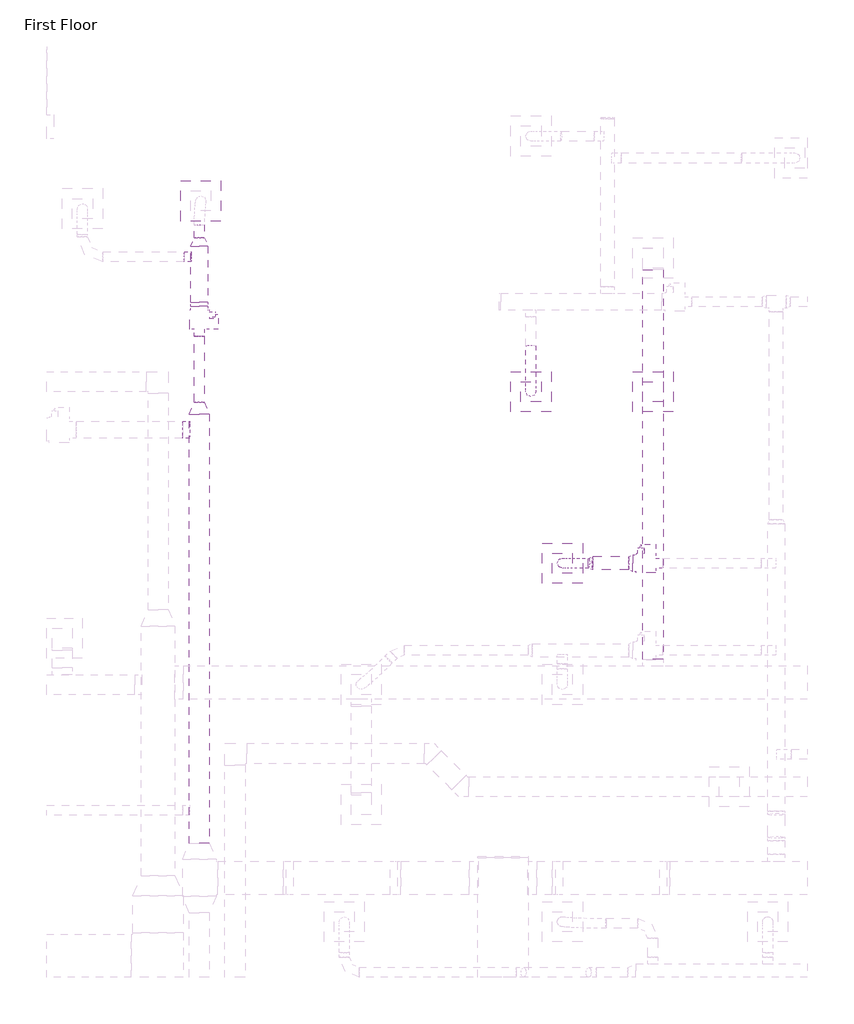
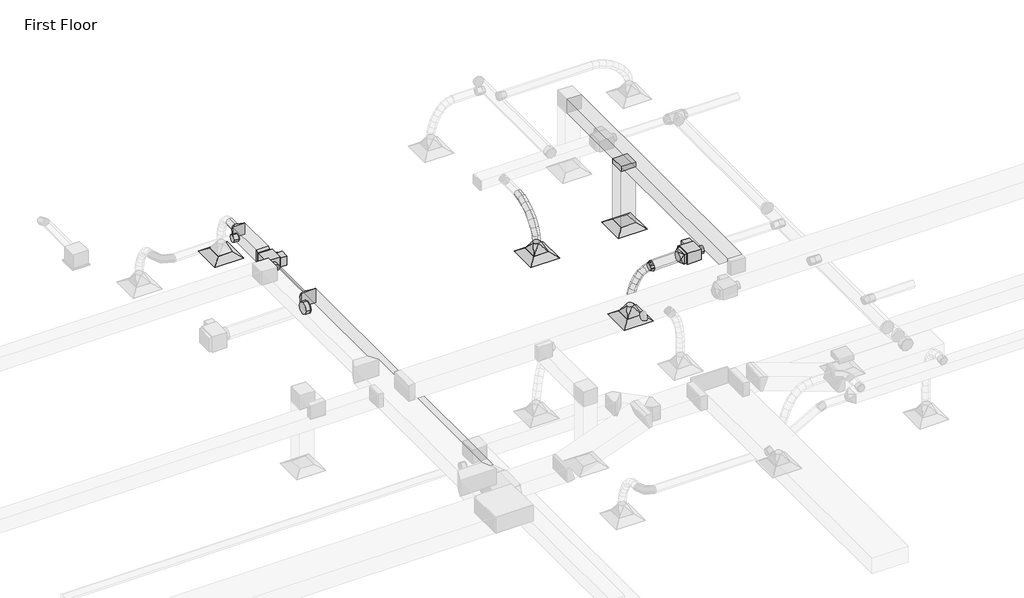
# One storey, part 45 of 61: 10 duct fittings, 9 duct segments, 4 air terminals, 2 proxies.
"""IFC4 building model written with IfcOpenShell, lengths in millimetres."""

from ifc_helpers import new_model, si_unit, point, frame, frame_2d, origin, place, context, project, spatial, polyline, circle_curve, ellipse_curve, trimmed, segment, composite_curve, outline, extrude, transform, mapped, element, save
from ifc_brep_helpers import plane_surface, cylinder_surface, advanced_brep
from components import m_exhaust_grill_er_600_x_600_face_300_x_300_connection_ff221211, m_vav_unit_single_duct_150_mm_ffdab17b, m_rectangular_takeoff_standard_c00386d1, m_rectangular_transition_angle_45_degree_9245851e, m_rectangular_to_round_transition_angle_45_degree_8f201c83, m_rectangular_to_round_transition_angle_45_degree_9bcfcd89, m_rectangular_to_round_transition_angle_45_degree_c6fe11b9, m_rectangular_to_round_transition_angle_45_degree_c6905c64, m_round_takeoff_standard_2721f8a4, m_round_takeoff_standard_4aec91d0, m_round_transition_angle_45_degree_6d7b59ce

model = new_model("IFC4")

# Units and contexts
model_context = context("Model", 3, world=origin())
ifc_project = project(units=[si_unit("LENGTHUNIT", "METRE", prefix="MILLI")], contexts=[model_context])

# Site, building, storey
site = spatial("IfcSite", under=ifc_project)
building = spatial("IfcBuilding", under=site)
storey = spatial("IfcBuildingStorey", under=building, Name="First Floor", Elevation=0.0)

# Air terminals
placement = place(None, origin())
m_exhaust_grill_er_600_x_600_face_300_x_300_connection_shape = m_exhaust_grill_er_600_x_600_face_300_x_300_connection_ff221211(model_context)
element("IfcAirTerminal", 1, ObjectType="M_Return Register : RR-600 x 600 Face 300 x 300 Connection", at=placement, inside=storey, context=model_context, shape_type="MappedRepresentation", body=[
    mapped(m_exhaust_grill_er_600_x_600_face_300_x_300_connection_shape, transform((-32756.4805906, 51545.5053219, 2680.0), x_axis=(1.0, 0.0, 0.0), y_axis=(0.0, 1.0, 0.0), z_axis=(0.0, 0.0, 1.0))),
])
element("IfcAirTerminal", 2, ObjectType="M_Supply Diffuser : SD-600 x 600 Face 300 x 300 Connection", at=placement, inside=storey, context=model_context, shape_type="MappedRepresentation", body=[
    mapped(m_exhaust_grill_er_600_x_600_face_300_x_300_connection_shape, transform((-34574.8846187, 51545.5053219, 2680.0), x_axis=(1.0, 0.0, 0.0), y_axis=(0.0, 1.0, 0.0), z_axis=(0.0, 0.0, 1.0))),
])
element("IfcAirTerminal", 3, ObjectType="M_Supply Diffuser : SD-600 x 600 Face 300 x 300 Connection", at=placement, inside=storey, context=model_context, shape_type="MappedRepresentation", body=[
    mapped(m_exhaust_grill_er_600_x_600_face_300_x_300_connection_shape, transform((-34106.7085824, 48990.9394014, 2680.0), x_axis=(1.0, 0.0, 0.0), y_axis=(0.0, 1.0, 0.0), z_axis=(0.0, 0.0, 1.0))),
])
element("IfcAirTerminal", 4, ObjectType="M_Supply Diffuser : SD-600 x 600 Face 300 x 300 Connection", at=placement, inside=storey, context=model_context, shape_type="MappedRepresentation", body=[
    mapped(m_exhaust_grill_er_600_x_600_face_300_x_300_connection_shape, transform((-39494.4029454, 54390.0357448, 2680.0), x_axis=(1.0, 0.0, 0.0), y_axis=(0.0, 1.0, 0.0), z_axis=(0.0, 0.0, 1.0))),
])

# Proxies
m_vav_unit_single_duct_150_mm_shape = m_vav_unit_single_duct_150_mm_ffdab17b(model_context)
element("IfcBuildingElementProxy", 5, Name="M_VAV Unit - Single Duct : 150 mm", ObjectType="M_VAV Unit - Single Duct : 150 mm", at=placement, inside=storey, context=model_context, shape_type="MappedRepresentation", body=[
    mapped(m_vav_unit_single_duct_150_mm_shape, transform((-32714.1170835, 48990.9394014, 3550.1), x_axis=(-1.0000000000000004, 0.0, 0.0), y_axis=(0.0, -1.0000000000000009, 0.0), z_axis=(0.0, 0.0, 1.0000000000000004))),
])
element("IfcBuildingElementProxy", 6, Name="M_VAV Unit - Single Duct : 150 mm", ObjectType="M_VAV Unit - Single Duct : 150 mm", at=placement, inside=storey, context=model_context, shape_type="MappedRepresentation", body=[
    mapped(m_vav_unit_single_duct_150_mm_shape, transform((-39516.7687402, 52474.130717, 3500.0), x_axis=(0.0, 1.0000000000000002, 0.0), y_axis=(-1.0000000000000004, 0.0, 0.0), z_axis=(0.0, 0.0, 1.0000000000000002))),
])

# Duct fittings
m_rectangular_takeoff_standard_shape = m_rectangular_takeoff_standard_c00386d1(model_context)
element("IfcDuctFitting", 7, ObjectType="M_Rectangular Takeoff : Standard", at=placement, inside=storey, context=model_context, shape_type="MappedRepresentation", body=[
    mapped(m_rectangular_takeoff_standard_shape, transform((-32756.4805906, 51545.5053219, 4109.5), x_axis=(0.0, 0.0, -1.0), y_axis=(1.0, 0.0, 0.0), z_axis=(0.0, -1.0, 0.0))),
])
m_rectangular_transition_angle_45_degree_shape = m_rectangular_transition_angle_45_degree_9245851e(model_context)
element("IfcDuctFitting", 8, ObjectType="M_Rectangular Transition - Angle : 45 Degree", at=placement, inside=storey, context=model_context, shape_type="MappedRepresentation", body=[
    mapped(m_rectangular_transition_angle_45_degree_shape, transform((-39516.7687402, 52816.930717, 3619.05), x_axis=(0.0, 1.0, 0.0), y_axis=(-1.0, 0.0, 0.0), z_axis=(0.0, 0.0, 1.0))),
])
m_rectangular_to_round_transition_angle_45_degree_shape = m_rectangular_to_round_transition_angle_45_degree_8f201c83(model_context)
element("IfcDuctFitting", 9, ObjectType="M_Rectangular to Round Transition - Angle : 45 Degree", at=placement, inside=storey, context=model_context, shape_type="MappedRepresentation", body=[
    mapped(m_rectangular_to_round_transition_angle_45_degree_shape, transform((-34574.8846187, 51545.5053219, 2781.6), x_axis=(0.0, 0.0, 1.0), y_axis=(1.0, 0.0, 0.0), z_axis=(0.0, 1.0, 0.0))),
])
element("IfcDuctFitting", 10, ObjectType="M_Rectangular to Round Transition - Angle : 45 Degree", at=placement, inside=storey, context=model_context, shape_type="MappedRepresentation", body=[
    mapped(m_rectangular_to_round_transition_angle_45_degree_shape, transform((-34106.7085824, 48990.9394014, 2781.6), x_axis=(0.0, 0.0, 1.0), y_axis=(1.0, 0.0, 0.0), z_axis=(0.0, 1.0, 0.0))),
])
m_rectangular_to_round_transition_angle_45_degree_2_shape = m_rectangular_to_round_transition_angle_45_degree_9bcfcd89(model_context)
element("IfcDuctFitting", 11, ObjectType="M_Rectangular to Round Transition - Angle : 45 Degree", at=placement, inside=storey, context=model_context, shape_type="MappedRepresentation", body=[
    mapped(m_rectangular_to_round_transition_angle_45_degree_2_shape, transform((-33056.9170835, 48990.9394014, 3669.15), x_axis=(-1.0, 0.0, 0.0), y_axis=(0.0, -1.0, 0.0), z_axis=(0.0, 0.0, 1.0))),
])
m_rectangular_to_round_transition_angle_45_degree_3_shape = m_rectangular_to_round_transition_angle_45_degree_c6fe11b9(model_context)
element("IfcDuctFitting", 12, ObjectType="M_Rectangular to Round Transition - Angle : 45 Degree", at=placement, inside=storey, context=model_context, shape_type="MappedRepresentation", body=[
    mapped(m_rectangular_to_round_transition_angle_45_degree_3_shape, transform((-39516.7687402, 53716.930717, 3619.1), x_axis=(0.0, 1.0, 0.0), y_axis=(-1.0, 0.0, 0.0), z_axis=(0.0, 0.0, 1.0))),
])
m_rectangular_to_round_transition_angle_45_degree_4_shape = m_rectangular_to_round_transition_angle_45_degree_c6905c64(model_context)
element("IfcDuctFitting", 13, ObjectType="M_Rectangular to Round Transition - Angle : 45 Degree", at=placement, inside=storey, context=model_context, shape_type="MappedRepresentation", body=[
    mapped(m_rectangular_to_round_transition_angle_45_degree_4_shape, transform((-39517.6187402, 51210.9394014, 3659.5), x_axis=(0.0, 0.9999999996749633, 2.5496537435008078e-05), y_axis=(-1.0, 0.0, 0.0), z_axis=(0.0, -2.5496537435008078e-05, 0.9999999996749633))),
])
m_round_takeoff_standard_shape = m_round_takeoff_standard_2721f8a4(model_context)
element("IfcDuctFitting", 14, ObjectType="M_Round Takeoff : Standard", at=placement, inside=storey, context=model_context, shape_type="MappedRepresentation", body=[
    mapped(m_round_takeoff_standard_shape, transform((-39641.7687402, 53555.7638627, 3619.1), x_axis=(-1.0, 0.0, 0.0), y_axis=(0.0, 1.0, 0.0), z_axis=(0.0, 0.0, -1.0))),
])
m_round_takeoff_standard_2_shape = m_round_takeoff_standard_4aec91d0(model_context)
element("IfcDuctFitting", 15, ObjectType="M_Round Takeoff : Standard", at=placement, inside=storey, context=model_context, shape_type="MappedRepresentation", body=[
    mapped(m_round_takeoff_standard_2_shape, transform((-39667.6187402, 50979.8949461, 3659.5020453), x_axis=(-0.9999999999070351, 0.0, 1.3635603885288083e-05), y_axis=(0.0, 1.0, 0.0), z_axis=(-1.3635603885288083e-05, 0.0, -0.9999999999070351))),
])
m_round_transition_angle_45_degree_shape = m_round_transition_angle_45_degree_6d7b59ce(model_context)
element("IfcDuctFitting", 16, ObjectType="M_Round Transition - Angle : 45 Degree", at=placement, inside=storey, context=model_context, shape_type="MappedRepresentation", body=[
    mapped(m_round_transition_angle_45_degree_shape, transform((-33656.9170835, 48990.9394014, 3659.6), x_axis=(-0.9998434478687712, 0.0, -0.017694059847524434), y_axis=(0.0, -1.0, 0.0), z_axis=(-0.017694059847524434, 0.0, 0.9998434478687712))),
])

# Duct segments
element("IfcDuctSegment", 17, ObjectType="Flex - Round", at=placement, inside=storey, context=model_context, shape_type="AdvancedBrep", body=[
    advanced_brep(
    [(-34499.8846187, 52228.9907116, 3619.1), (-34574.8846187, 52239.6860226, 3544.8665148), (-34649.8846187, 52228.9907116, 3619.1), (-34574.8846187, 52218.2954007, 3693.3334852), (-34499.8846187, 52091.6672377, 3599.3148956), (-34574.8846187, 52111.3512823, 3526.3764769), (-34649.8846187, 52091.6672377, 3599.3148956), (-34574.8846187, 52071.9831931, 3672.2533143), (-34499.8846187, 51545.5053219, 2962.6660172), (-34574.8846187, 51471.4094957, 2974.2767248), (-34649.8846187, 51545.5053219, 2962.6660172), (-34574.8846187, 51619.6011482, 2951.0553095), (-34499.8846187, 51955.3465027, 3544.2185774), (-34574.8846187, 51990.3158226, 3477.4579598), (-34649.8846187, 51955.3465027, 3544.2185774), (-34574.8846187, 51920.3771828, 3610.9791949), (-34499.8846187, 51827.3634041, 3460.1995378), (-34574.8846187, 51874.1233741, 3401.1793103), (-34649.8846187, 51827.3634041, 3460.1995378), (-34574.8846187, 51780.6034341, 3519.2197654), (-34499.8846187, 51715.0528393, 3353.6462695), (-34574.8846187, 51771.6527455, 3303.9615606), (-34649.8846187, 51715.0528393, 3353.6462695), (-34574.8846187, 51658.4529331, 3403.3309784), (-34499.8846187, 51625.7497057, 3230.947265), (-34574.8846187, 51691.0482291, 3193.214115), (-34649.8846187, 51625.7497057, 3230.947265), (-34574.8846187, 51560.4511823, 3268.6804149), (-34499.8846187, 51566.7889008, 3098.4910167), (-34574.8846187, 51639.3468974, 3077.0663719), (-34649.8846187, 51566.7889008, 3098.4910167), (-34574.8846187, 51494.2309041, 3119.9156615)],
    [
        (0, 1, circle_curve(frame((-34574.8846187, 52228.9907116, 3619.1), z_axis=(0.0, 0.9897798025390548, 0.14260414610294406), x_axis=(1.0, 0.0, 0.0)), 75.0)),
        (1, 2, circle_curve(frame((-34574.8846187, 52228.9907116, 3619.1), z_axis=(0.0, 0.9897798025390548, 0.14260414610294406), x_axis=(1.0, 0.0, 0.0)), 75.0)),
        (2, 3, circle_curve(frame((-34574.8846187, 52228.9907116, 3619.1), z_axis=(0.0, 0.9897798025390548, 0.14260414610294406), x_axis=(1.0, 0.0, 0.0)), 75.0)),
        (3, 0, circle_curve(frame((-34574.8846187, 52228.9907116, 3619.1), z_axis=(0.0, 0.9897798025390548, 0.14260414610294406), x_axis=(1.0, 0.0, 0.0)), 75.0)),
        (0, 4),
        (4, 5, ellipse_curve(frame((-34574.8846187, 52091.6672377, 3599.3148956), z_axis=(0.0, 0.9654601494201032, 0.2605507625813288), x_axis=(0.0, 0.2605507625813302, -0.9654601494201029)), 75.5478294, 75.0)),
        (5, 1),
        (5, 6, ellipse_curve(frame((-34574.8846187, 52091.6672377, 3599.3148956), z_axis=(0.0, 0.9654601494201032, 0.2605507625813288), x_axis=(0.0, 0.2605507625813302, -0.9654601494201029)), 75.5478294, 75.0)),
        (6, 2),
        (6, 7, ellipse_curve(frame((-34574.8846187, 52091.6672377, 3599.3148956), z_axis=(0.0, 0.9654601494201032, 0.2605507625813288), x_axis=(0.0, 0.2605507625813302, -0.9654601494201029)), 75.5478294, 75.0)),
        (7, 3),
        (7, 4, ellipse_curve(frame((-34574.8846187, 52091.6672377, 3599.3148956), z_axis=(0.0, 0.9654601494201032, 0.2605507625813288), x_axis=(0.0, 0.2605507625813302, -0.9654601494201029)), 75.5478294, 75.0)),
        (8, 9, circle_curve(frame((-34574.8846187, 51545.5053219, 2962.6660172), z_axis=(0.0, -0.15480943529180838, -0.9879443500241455), x_axis=(1.0, 0.0, 0.0)), 75.0)),
        (9, 10, circle_curve(frame((-34574.8846187, 51545.5053219, 2962.6660172), z_axis=(0.0, -0.15480943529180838, -0.9879443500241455), x_axis=(1.0, 0.0, 0.0)), 75.0)),
        (10, 11, circle_curve(frame((-34574.8846187, 51545.5053219, 2962.6660172), z_axis=(0.0, -0.15480943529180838, -0.9879443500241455), x_axis=(1.0, 0.0, 0.0)), 75.0)),
        (11, 8, circle_curve(frame((-34574.8846187, 51545.5053219, 2962.6660172), z_axis=(0.0, -0.15480943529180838, -0.9879443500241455), x_axis=(1.0, 0.0, 0.0)), 75.0)),
        (4, 12),
        (12, 13, ellipse_curve(frame((-34574.8846187, 51955.3465027, 3544.2185774), z_axis=(0.0, 0.8858344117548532, 0.46400150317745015), x_axis=(0.0, 0.464001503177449, -0.8858344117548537)), 75.3646693, 75.0)),
        (13, 5),
        (13, 14, ellipse_curve(frame((-34574.8846187, 51955.3465027, 3544.2185774), z_axis=(0.0, 0.8858344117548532, 0.46400150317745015), x_axis=(0.0, 0.464001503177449, -0.8858344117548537)), 75.3646693, 75.0)),
        (14, 6),
        (14, 15, ellipse_curve(frame((-34574.8846187, 51955.3465027, 3544.2185774), z_axis=(0.0, 0.8858344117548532, 0.46400150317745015), x_axis=(0.0, 0.464001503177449, -0.8858344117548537)), 75.3646693, 75.0)),
        (15, 7),
        (15, 12, ellipse_curve(frame((-34574.8846187, 51955.3465027, 3544.2185774), z_axis=(0.0, 0.8858344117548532, 0.46400150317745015), x_axis=(0.0, 0.464001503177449, -0.8858344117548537)), 75.3646693, 75.0)),
        (12, 16),
        (16, 17, ellipse_curve(frame((-34574.8846187, 51827.3634041, 3460.1995378), z_axis=(0.0, 0.7838155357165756, 0.6209937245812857), x_axis=(0.0, 0.6209937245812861, -0.7838155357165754)), 75.2986192, 75.0)),
        (17, 13),
        (17, 18, ellipse_curve(frame((-34574.8846187, 51827.3634041, 3460.1995378), z_axis=(0.0, 0.7838155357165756, 0.6209937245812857), x_axis=(0.0, 0.6209937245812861, -0.7838155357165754)), 75.2986192, 75.0)),
        (18, 14),
        (18, 19, ellipse_curve(frame((-34574.8846187, 51827.3634041, 3460.1995378), z_axis=(0.0, 0.7838155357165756, 0.6209937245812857), x_axis=(0.0, 0.6209937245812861, -0.7838155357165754)), 75.2986192, 75.0)),
        (19, 15),
        (19, 16, ellipse_curve(frame((-34574.8846187, 51827.3634041, 3460.1995378), z_axis=(0.0, 0.7838155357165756, 0.6209937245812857), x_axis=(0.0, 0.6209937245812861, -0.7838155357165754)), 75.2986192, 75.0)),
        (16, 20),
        (20, 21, ellipse_curve(frame((-34574.8846187, 51715.0528393, 3353.6462695), z_axis=(0.0, 0.6597054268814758, 0.7515242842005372), x_axis=(0.0, 0.7515242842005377, -0.6597054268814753)), 75.3134761, 75.0)),
        (21, 17),
        (21, 22, ellipse_curve(frame((-34574.8846187, 51715.0528393, 3353.6462695), z_axis=(0.0, 0.6597054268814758, 0.7515242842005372), x_axis=(0.0, 0.7515242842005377, -0.6597054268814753)), 75.3134761, 75.0)),
        (22, 18),
        (22, 23, ellipse_curve(frame((-34574.8846187, 51715.0528393, 3353.6462695), z_axis=(0.0, 0.6597054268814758, 0.7515242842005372), x_axis=(0.0, 0.7515242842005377, -0.6597054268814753)), 75.3134761, 75.0)),
        (23, 19),
        (23, 20, ellipse_curve(frame((-34574.8846187, 51715.0528393, 3353.6462695), z_axis=(0.0, 0.6597054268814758, 0.7515242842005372), x_axis=(0.0, 0.7515242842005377, -0.6597054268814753)), 75.3134761, 75.0)),
        (20, 24),
        (24, 25, ellipse_curve(frame((-34574.8846187, 51625.7497057, 3230.947265), z_axis=(0.0, 0.5003284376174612, 0.8658356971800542), x_axis=(0.0, 0.8658356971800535, -0.5003284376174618)), 75.4167605, 75.0)),
        (25, 21),
        (25, 26, ellipse_curve(frame((-34574.8846187, 51625.7497057, 3230.947265), z_axis=(0.0, 0.5003284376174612, 0.8658356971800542), x_axis=(0.0, 0.8658356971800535, -0.5003284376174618)), 75.4167605, 75.0)),
        (26, 22),
        (26, 27, ellipse_curve(frame((-34574.8846187, 51625.7497057, 3230.947265), z_axis=(0.0, 0.5003284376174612, 0.8658356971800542), x_axis=(0.0, 0.8658356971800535, -0.5003284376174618)), 75.4167605, 75.0)),
        (27, 23),
        (27, 24, ellipse_curve(frame((-34574.8846187, 51625.7497057, 3230.947265), z_axis=(0.0, 0.5003284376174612, 0.8658356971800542), x_axis=(0.0, 0.8658356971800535, -0.5003284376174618)), 75.4167605, 75.0)),
        (24, 28),
        (28, 29, ellipse_curve(frame((-34574.8846187, 51566.7889008, 3098.4910167), z_axis=(0.0, 0.2831887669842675, 0.9590641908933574), x_axis=(0.0, 0.9590641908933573, -0.28318876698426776)), 75.6549951, 75.0)),
        (29, 25),
        (29, 30, ellipse_curve(frame((-34574.8846187, 51566.7889008, 3098.4910167), z_axis=(0.0, 0.2831887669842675, 0.9590641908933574), x_axis=(0.0, 0.9590641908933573, -0.28318876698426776)), 75.6549951, 75.0)),
        (30, 26),
        (30, 31, ellipse_curve(frame((-34574.8846187, 51566.7889008, 3098.4910167), z_axis=(0.0, 0.2831887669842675, 0.9590641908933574), x_axis=(0.0, 0.9590641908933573, -0.28318876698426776)), 75.6549951, 75.0)),
        (31, 27),
        (31, 28, ellipse_curve(frame((-34574.8846187, 51566.7889008, 3098.4910167), z_axis=(0.0, 0.2831887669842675, 0.9590641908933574), x_axis=(0.0, 0.9590641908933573, -0.28318876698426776)), 75.6549951, 75.0)),
        (28, 8),
        (11, 29),
        (10, 30),
        (9, 31),
    ],
    [
        plane_surface(frame((-34574.8846187, 52239.6860226, 3544.8665148), z_axis=(0.0, 0.9897798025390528, 0.14260414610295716), x_axis=(1.0, 0.0, 0.0))),
        cylinder_surface(frame((-34574.8846187, 52228.9907116, 3619.1), z_axis=(0.0, 0.9897798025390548, 0.14260414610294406), x_axis=(1.0, 0.0, 0.0)), 75.0),
        plane_surface(frame((-34574.8846187, 51619.6011482, 2951.0553095), z_axis=(0.0, -0.1548094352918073, -0.9879443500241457), x_axis=(1.0, 0.0, 0.0))),
        cylinder_surface(frame((-34574.8846187, 52091.6672377, 3599.3148956), z_axis=(0.0, 0.927138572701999, 0.3747186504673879), x_axis=(1.0, 0.0, 0.0)), 75.0),
        cylinder_surface(frame((-34574.8846187, 51955.3465027, 3544.2185774), z_axis=(0.0, 0.835957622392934, 0.5487939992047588), x_axis=(1.0, 0.0, 0.0)), 75.0),
        cylinder_surface(frame((-34574.8846187, 51827.3634041, 3460.1995378), z_axis=(0.0, 0.7254565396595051, 0.6882679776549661), x_axis=(1.0, 0.0, 0.0)), 75.0),
        cylinder_surface(frame((-34574.8846187, 51715.0528393, 3353.6462695), z_axis=(0.0, 0.5884625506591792, 0.8085244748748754), x_axis=(1.0, 0.0, 0.0)), 75.0),
        cylinder_surface(frame((-34574.8846187, 51625.7497057, 3230.947265), z_axis=(0.0, 0.4066645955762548, 0.913577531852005), x_axis=(1.0, 0.0, 0.0)), 75.0),
        cylinder_surface(frame((-34574.8846187, 51566.7889008, 3098.4910167), z_axis=(0.0, 0.15480943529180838, 0.9879443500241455), x_axis=(1.0, 0.0, 0.0)), 75.0),
    ],
    [
        (0, [[1, 2, 3, 4]]),
        (1, [[-1, 5, 6, 7]]),
        (1, [[-2, -7, 8, 9]]),
        (1, [[-3, -9, 10, 11]]),
        (1, [[-4, -11, 12, -5]]),
        (2, [[13, 14, 15, 16]]),
        (3, [[-6, 17, 18, 19]]),
        (3, [[-8, -19, 20, 21]]),
        (3, [[-10, -21, 22, 23]]),
        (3, [[-12, -23, 24, -17]]),
        (4, [[-18, 25, 26, 27]]),
        (4, [[-20, -27, 28, 29]]),
        (4, [[-22, -29, 30, 31]]),
        (4, [[-24, -31, 32, -25]]),
        (5, [[-26, 33, 34, 35]]),
        (5, [[-28, -35, 36, 37]]),
        (5, [[-30, -37, 38, 39]]),
        (5, [[-32, -39, 40, -33]]),
        (6, [[-34, 41, 42, 43]]),
        (6, [[-36, -43, 44, 45]]),
        (6, [[-38, -45, 46, 47]]),
        (6, [[-40, -47, 48, -41]]),
        (7, [[-42, 49, 50, 51]]),
        (7, [[-44, -51, 52, 53]]),
        (7, [[-46, -53, 54, 55]]),
        (7, [[-48, -55, 56, -49]]),
        (8, [[-50, 57, -16, 58]]),
        (8, [[-52, -58, -15, 59]]),
        (8, [[-54, -59, -14, 60]]),
        (8, [[-56, -60, -13, -57]]),
    ],
),
])
element("IfcDuctSegment", 18, ObjectType="Flex - Round", at=placement, inside=storey, context=model_context, shape_type="AdvancedBrep", body=[
    advanced_brep(
    [(-33717.2629738, 48915.9394014, 3658.532069), (-33701.2385403, 48990.9394014, 3585.2639482), (-33717.2629738, 49065.9394014, 3658.532069), (-33733.2874073, 48990.9394014, 3731.8001898), (-33810.3017306, 48915.9394014, 3638.1836097), (-33780.5640871, 48990.9394014, 3567.9146981), (-33810.3017306, 49065.9394014, 3638.1836097), (-33840.0393741, 48990.9394014, 3708.4525214), (-34106.7085824, 48915.9394014, 2962.6660172), (-34181.5953251, 48990.9394014, 2966.7861821), (-34106.7085824, 49065.9394014, 2962.6660172), (-34031.8218396, 48990.9394014, 2958.5458523), (-33890.2351386, 48915.9394014, 3585.1984217), (-33839.9683822, 48990.9394014, 3528.5375737), (-33890.2351386, 49065.9394014, 3585.1984217), (-33940.5018951, 48990.9394014, 3641.8592696), (-33957.2790073, 48915.9394014, 3506.3756126), (-33895.3303687, 48990.9394014, 3463.4490372), (-33957.2790073, 49065.9394014, 3506.3756126), (-34019.2276458, 48990.9394014, 3549.3021879), (-34011.6491456, 48915.9394014, 3408.5142899), (-33943.4722517, 48990.9394014, 3376.7980099), (-34011.6491456, 49065.9394014, 3408.5142899), (-34079.8260396, 48990.9394014, 3440.23057), (-34053.5613631, 48915.9394014, 3298.4135614), (-33981.9674756, 48990.9394014, 3275.6735062), (-34053.5613631, 49065.9394014, 3298.4135614), (-34125.1552506, 48990.9394014, 3321.1536167), (-34083.2314689, 48915.9394014, 3182.8725347), (-34009.6731041, 48990.9394014, 3167.782527), (-34083.2314689, 49065.9394014, 3182.8725347), (-34156.7898336, 48990.9394014, 3197.9625425), (-34100.8752722, 48915.9394014, 3068.6903174), (-34026.1912968, 48990.9394014, 3060.8847208), (-34100.8752722, 49065.9394014, 3068.6903174), (-34175.5592476, 48990.9394014, 3076.495914)],
    [
        (0, 1, circle_curve(frame((-33717.2629738, 48990.9394014, 3658.532069), z_axis=(0.9769082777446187, 0.0, 0.21365911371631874), x_axis=(0.0, -1.0, 0.0)), 75.0)),
        (1, 2, circle_curve(frame((-33717.2629738, 48990.9394014, 3658.532069), z_axis=(0.9769082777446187, 0.0, 0.21365911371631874), x_axis=(0.0, -1.0, 0.0)), 75.0)),
        (2, 3, circle_curve(frame((-33717.2629738, 48990.9394014, 3658.532069), z_axis=(0.9769082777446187, 0.0, 0.21365911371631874), x_axis=(0.0, -1.0, 0.0)), 75.0)),
        (3, 0, circle_curve(frame((-33717.2629738, 48990.9394014, 3658.532069), z_axis=(0.9769082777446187, 0.0, 0.21365911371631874), x_axis=(0.0, -1.0, 0.0)), 75.0)),
        (0, 4),
        (4, 5, ellipse_curve(frame((-33810.3017306, 48990.9394014, 3638.1836097), z_axis=(0.9209273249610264, 0.0, 0.38973434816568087), x_axis=(0.3897343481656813, 0.0, -0.9209273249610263)), 76.3023419, 75.0)),
        (5, 1),
        (5, 6, ellipse_curve(frame((-33810.3017306, 48990.9394014, 3638.1836097), z_axis=(0.9209273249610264, 0.0, 0.38973434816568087), x_axis=(0.3897343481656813, 0.0, -0.9209273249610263)), 76.3023419, 75.0)),
        (6, 2),
        (6, 7, ellipse_curve(frame((-33810.3017306, 48990.9394014, 3638.1836097), z_axis=(0.9209273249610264, 0.0, 0.38973434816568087), x_axis=(0.3897343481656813, 0.0, -0.9209273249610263)), 76.3023419, 75.0)),
        (7, 3),
        (7, 4, ellipse_curve(frame((-33810.3017306, 48990.9394014, 3638.1836097), z_axis=(0.9209273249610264, 0.0, 0.38973434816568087), x_axis=(0.3897343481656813, 0.0, -0.9209273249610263)), 76.3023419, 75.0)),
        (8, 9, circle_curve(frame((-34106.7085824, 48990.9394014, 2962.6660172), z_axis=(-0.05493553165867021, 0.0, -0.9984899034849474), x_axis=(0.0, -1.0, 0.0)), 75.0)),
        (9, 10, circle_curve(frame((-34106.7085824, 48990.9394014, 2962.6660172), z_axis=(-0.05493553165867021, 0.0, -0.9984899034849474), x_axis=(0.0, -1.0, 0.0)), 75.0)),
        (10, 11, circle_curve(frame((-34106.7085824, 48990.9394014, 2962.6660172), z_axis=(-0.05493553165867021, 0.0, -0.9984899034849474), x_axis=(0.0, -1.0, 0.0)), 75.0)),
        (11, 8, circle_curve(frame((-34106.7085824, 48990.9394014, 2962.6660172), z_axis=(-0.05493553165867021, 0.0, -0.9984899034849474), x_axis=(0.0, -1.0, 0.0)), 75.0)),
        (4, 12),
        (12, 13, ellipse_curve(frame((-33890.2351386, 48990.9394014, 3585.1984217), z_axis=(0.7480543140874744, 0.0, 0.6636375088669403), x_axis=(0.6636375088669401, 0.0, -0.7480543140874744)), 75.7442967, 75.0)),
        (13, 5),
        (13, 14, ellipse_curve(frame((-33890.2351386, 48990.9394014, 3585.1984217), z_axis=(0.7480543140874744, 0.0, 0.6636375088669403), x_axis=(0.6636375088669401, 0.0, -0.7480543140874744)), 75.7442967, 75.0)),
        (14, 6),
        (14, 15, ellipse_curve(frame((-33890.2351386, 48990.9394014, 3585.1984217), z_axis=(0.7480543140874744, 0.0, 0.6636375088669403), x_axis=(0.6636375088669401, 0.0, -0.7480543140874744)), 75.7442967, 75.0)),
        (15, 7),
        (15, 12, ellipse_curve(frame((-33890.2351386, 48990.9394014, 3585.1984217), z_axis=(0.7480543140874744, 0.0, 0.6636375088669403), x_axis=(0.6636375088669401, 0.0, -0.7480543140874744)), 75.7442967, 75.0)),
        (12, 16),
        (16, 17, ellipse_curve(frame((-33957.2790073, 48990.9394014, 3506.3756126), z_axis=(0.5695602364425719, 0.0, 0.8219495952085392), x_axis=(0.8219495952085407, 0.0, -0.5695602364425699)), 75.3679288, 75.0)),
        (17, 13),
        (17, 18, ellipse_curve(frame((-33957.2790073, 48990.9394014, 3506.3756126), z_axis=(0.5695602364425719, 0.0, 0.8219495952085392), x_axis=(0.8219495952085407, 0.0, -0.5695602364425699)), 75.3679288, 75.0)),
        (18, 14),
        (18, 19, ellipse_curve(frame((-33957.2790073, 48990.9394014, 3506.3756126), z_axis=(0.5695602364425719, 0.0, 0.8219495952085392), x_axis=(0.8219495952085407, 0.0, -0.5695602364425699)), 75.3679288, 75.0)),
        (19, 15),
        (19, 16, ellipse_curve(frame((-33957.2790073, 48990.9394014, 3506.3756126), z_axis=(0.5695602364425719, 0.0, 0.8219495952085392), x_axis=(0.8219495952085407, 0.0, -0.5695602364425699)), 75.3679288, 75.0)),
        (16, 20),
        (20, 21, ellipse_curve(frame((-34011.6491456, 48990.9394014, 3408.5142899), z_axis=(0.4217974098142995, 0.0, 0.9066901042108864), x_axis=(0.9066901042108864, 0.0, -0.4217974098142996)), 75.1931598, 75.0)),
        (21, 17),
        (21, 22, ellipse_curve(frame((-34011.6491456, 48990.9394014, 3408.5142899), z_axis=(0.4217974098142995, 0.0, 0.9066901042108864), x_axis=(0.9066901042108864, 0.0, -0.4217974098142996)), 75.1931598, 75.0)),
        (22, 18),
        (22, 23, ellipse_curve(frame((-34011.6491456, 48990.9394014, 3408.5142899), z_axis=(0.4217974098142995, 0.0, 0.9066901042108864), x_axis=(0.9066901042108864, 0.0, -0.4217974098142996)), 75.1931598, 75.0)),
        (23, 19),
        (23, 20, ellipse_curve(frame((-34011.6491456, 48990.9394014, 3408.5142899), z_axis=(0.4217974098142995, 0.0, 0.9066901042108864), x_axis=(0.9066901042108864, 0.0, -0.4217974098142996)), 75.1931598, 75.0)),
        (20, 24),
        (24, 25, ellipse_curve(frame((-34053.5613631, 48990.9394014, 3298.4135614), z_axis=(0.30272227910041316, 0.0, 0.9530788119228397), x_axis=(0.9530788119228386, -1.301319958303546e-12, -0.30272227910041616)), 75.1185386, 75.0)),
        (25, 21),
        (25, 26, ellipse_curve(frame((-34053.5613631, 48990.9394014, 3298.4135614), z_axis=(0.30272227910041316, 0.0, 0.9530788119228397), x_axis=(0.9530788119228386, -1.301319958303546e-12, -0.30272227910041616)), 75.1185386, 75.0)),
        (26, 22),
        (26, 27, ellipse_curve(frame((-34053.5613631, 48990.9394014, 3298.4135614), z_axis=(0.30272227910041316, 0.0, 0.9530788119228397), x_axis=(0.9530788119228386, -1.301319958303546e-12, -0.30272227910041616)), 75.1185386, 75.0)),
        (27, 23),
        (27, 24, ellipse_curve(frame((-34053.5613631, 48990.9394014, 3298.4135614), z_axis=(0.30272227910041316, 0.0, 0.9530788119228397), x_axis=(0.9530788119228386, -1.301319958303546e-12, -0.30272227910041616)), 75.1185386, 75.0)),
        (24, 28),
        (28, 29, ellipse_curve(frame((-34083.2314689, 48990.9394014, 3182.8725347), z_axis=(0.20095836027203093, 0.0, 0.9795997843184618), x_axis=(0.9795997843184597, 1.5059481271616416e-12, -0.2009583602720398)), 75.0902215, 75.0)),
        (29, 25),
        (29, 30, ellipse_curve(frame((-34083.2314689, 48990.9394014, 3182.8725347), z_axis=(0.20095836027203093, 0.0, 0.9795997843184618), x_axis=(0.9795997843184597, 1.5059481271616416e-12, -0.2009583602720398)), 75.0902215, 75.0)),
        (30, 26),
        (30, 31, ellipse_curve(frame((-34083.2314689, 48990.9394014, 3182.8725347), z_axis=(0.20095836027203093, 0.0, 0.9795997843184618), x_axis=(0.9795997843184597, 1.5059481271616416e-12, -0.2009583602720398)), 75.0902215, 75.0)),
        (31, 27),
        (31, 28, ellipse_curve(frame((-34083.2314689, 48990.9394014, 3182.8725347), z_axis=(0.20095836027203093, 0.0, 0.9795997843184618), x_axis=(0.9795997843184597, 1.5059481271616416e-12, -0.2009583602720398)), 75.0902215, 75.0)),
        (28, 32),
        (32, 33, ellipse_curve(frame((-34100.8752722, 48990.9394014, 3068.6903174), z_axis=(0.10394881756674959, 0.0, 0.9945826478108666), x_axis=(0.9945826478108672, 0.0, -0.10394881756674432)), 75.0907686, 75.0)),
        (33, 29),
        (33, 34, ellipse_curve(frame((-34100.8752722, 48990.9394014, 3068.6903174), z_axis=(0.10394881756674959, 0.0, 0.9945826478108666), x_axis=(0.9945826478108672, 0.0, -0.10394881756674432)), 75.0907686, 75.0)),
        (34, 30),
        (34, 35, ellipse_curve(frame((-34100.8752722, 48990.9394014, 3068.6903174), z_axis=(0.10394881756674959, 0.0, 0.9945826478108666), x_axis=(0.9945826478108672, 0.0, -0.10394881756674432)), 75.0907686, 75.0)),
        (35, 31),
        (35, 32, ellipse_curve(frame((-34100.8752722, 48990.9394014, 3068.6903174), z_axis=(0.10394881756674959, 0.0, 0.9945826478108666), x_axis=(0.9945826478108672, 0.0, -0.10394881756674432)), 75.0907686, 75.0)),
        (32, 8),
        (11, 33),
        (10, 34),
        (9, 35),
    ],
    [
        plane_surface(frame((-33717.2629738, 49065.9394014, 3658.532069), z_axis=(0.976908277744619, 0.0, 0.2136591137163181), x_axis=(0.2136591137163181, 0.0, -0.976908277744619))),
        cylinder_surface(frame((-33717.2629738, 48990.9394014, 3658.532069), z_axis=(0.9769082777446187, 0.0, 0.21365911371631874), x_axis=(0.0, -1.0, 0.0)), 75.0),
        plane_surface(frame((-34106.7085824, 49065.9394014, 2962.6660172), z_axis=(-0.05493553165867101, 0.0, -0.9984899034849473), x_axis=(0.9984899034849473, 0.0, -0.05493553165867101))),
        cylinder_surface(frame((-33810.3017306, 48990.9394014, 3638.1836097), z_axis=(0.833509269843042, 0.0, 0.552505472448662), x_axis=(0.0, -1.0, 0.0)), 75.0),
        cylinder_surface(frame((-33890.2351386, 48990.9394014, 3585.1984217), z_axis=(0.6478979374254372, 0.0, 0.7617271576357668), x_axis=(0.0, -1.0, 0.0)), 75.0),
        cylinder_surface(frame((-33957.2790073, 48990.9394014, 3506.3756126), z_axis=(0.4856616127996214, 0.0, 0.8741468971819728), x_axis=(0.0, -1.0, 0.0)), 75.0),
        cylinder_surface(frame((-34011.6491456, 48990.9394014, 3408.5142899), z_axis=(0.3557661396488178, 0.0, 0.9345750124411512), x_axis=(0.0, -1.0, 0.0)), 75.0),
        cylinder_surface(frame((-34053.5613631, 48990.9394014, 3298.4135614), z_axis=(0.24872301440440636, 0.0, 0.9685746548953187), x_axis=(0.0, -1.0, 0.0)), 75.0),
        cylinder_surface(frame((-34083.2314689, 48990.9394014, 3182.8725347), z_axis=(0.15271080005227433, 0.0, 0.9882709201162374), x_axis=(0.0, -1.0, 0.0)), 75.0),
        cylinder_surface(frame((-34100.8752722, 48990.9394014, 3068.6903174), z_axis=(0.05493553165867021, 0.0, 0.9984899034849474), x_axis=(0.0, -1.0, 0.0)), 75.0),
    ],
    [
        (0, [[1, 2, 3, 4]]),
        (1, [[-1, 5, 6, 7]]),
        (1, [[-2, -7, 8, 9]]),
        (1, [[-3, -9, 10, 11]]),
        (1, [[-4, -11, 12, -5]]),
        (2, [[13, 14, 15, 16]]),
        (3, [[-6, 17, 18, 19]]),
        (3, [[-8, -19, 20, 21]]),
        (3, [[-10, -21, 22, 23]]),
        (3, [[-12, -23, 24, -17]]),
        (4, [[-18, 25, 26, 27]]),
        (4, [[-20, -27, 28, 29]]),
        (4, [[-22, -29, 30, 31]]),
        (4, [[-24, -31, 32, -25]]),
        (5, [[-26, 33, 34, 35]]),
        (5, [[-28, -35, 36, 37]]),
        (5, [[-30, -37, 38, 39]]),
        (5, [[-32, -39, 40, -33]]),
        (6, [[-34, 41, 42, 43]]),
        (6, [[-36, -43, 44, 45]]),
        (6, [[-38, -45, 46, 47]]),
        (6, [[-40, -47, 48, -41]]),
        (7, [[-42, 49, 50, 51]]),
        (7, [[-44, -51, 52, 53]]),
        (7, [[-46, -53, 54, 55]]),
        (7, [[-48, -55, 56, -49]]),
        (8, [[-50, 57, 58, 59]]),
        (8, [[-52, -59, 60, 61]]),
        (8, [[-54, -61, 62, 63]]),
        (8, [[-56, -63, 64, -57]]),
        (9, [[-58, 65, -16, 66]]),
        (9, [[-60, -66, -15, 67]]),
        (9, [[-62, -67, -14, 68]]),
        (9, [[-64, -68, -13, -65]]),
    ],
),
])
element("IfcDuctSegment", 19, ObjectType="Mitered Elbows / Taps", at=placement, inside=storey, context=model_context, shape_type="SweptSolid", body=[
    extrude(outline(polyline([(-32906.4805906, 53362.642219), (-32606.4805906, 53362.642219), (-32606.4805906, 47561.3321421), (-32906.4805906, 47561.3321421), (-32906.4805906, 53362.642219)])), frame((0.0, 0.0, 4109.5), z_axis=(0.0, 0.0, 1.0), x_axis=(1.0, 0.0, 0.0)), (0.0, 0.0, 1.0), 300.0),
])
element("IfcDuctSegment", 20, ObjectType="Mitered Elbows / Taps", at=placement, inside=storey, context=model_context, shape_type="SweptSolid", body=[
    extrude(outline(polyline([(-32906.4805906, 51695.5053219), (-32606.4805906, 51695.5053219), (-32606.4805906, 51395.5053219), (-32906.4805906, 51395.5053219), (-32906.4805906, 51695.5053219)])), frame((0.0, 0.0, 2781.6), z_axis=(0.0, 0.0, 1.0), x_axis=(1.0, 0.0, 0.0)), (0.0, 0.0, 1.0), 1227.9),
])
element("IfcDuctSegment", 21, ObjectType="Radius Elbows / Taps", at=placement, inside=storey, context=model_context, shape_type="SweptSolid", body=[
    extrude(outline(polyline([(-39391.7687402, 52877.2860207), (-39641.7687402, 52877.2860207), (-39641.7687402, 53716.930717), (-39391.7687402, 53716.930717), (-39391.7687402, 52877.2860207)])), frame((0.0, 0.0, 3494.1), z_axis=(0.0, 0.0, 1.0), x_axis=(1.0, 0.0, 0.0)), (0.0, 0.0, 1.0), 250.0),
])
element("IfcDuctSegment", 22, ObjectType="Radius Elbows / Taps", at=placement, inside=storey, context=model_context, shape_type="SweptSolid", body=[
    extrude(outline(polyline([(-39667.6187402, 51210.9394014), (-39367.6187402, 51210.9394014), (-39367.6187402, 44816.0963383), (-39667.6187402, 44816.0963383), (-39667.6187402, 51210.9394014)])), frame((0.0, 0.0, 3509.5), z_axis=(0.0, 0.0, 1.0), x_axis=(1.0, 0.0, 0.0)), (0.0, 0.0, 1.0), 300.0),
])
element("IfcDuctSegment", 23, ObjectType="Taps", at=placement, inside=storey, context=model_context, shape_type="SweptSolid", body=[
    extrude(outline(composite_curve([segment(trimmed(circle_curve(frame_2d((0.0, -100.0)), 100.0), [point((0.0, 0.0))], [point((100.0, -100.0))], False, "CARTESIAN"), True, "CONTINUOUS"), segment(trimmed(circle_curve(frame_2d((0.0, -100.0)), 100.0), [point((100.0, -100.0))], [point((0.0, -200.0))], False, "CARTESIAN"), True, "CONTINUOUS"), segment(trimmed(circle_curve(frame_2d((0.0, -100.0)), 100.0), [point((0.0, -200.0))], [point((-100.0, -100.0))], False, "CARTESIAN"), True, "CONTINUOUS"), segment(trimmed(circle_curve(frame_2d((0.0, -100.0)), 100.0), [point((-100.0, -100.0))], [point((0.0, 0.0))], False, "CARTESIAN"), True, "CONTINUOUS")], self_intersect=False)), frame((-33656.9170835, 49090.9394014, 3659.6), z_axis=(0.9998434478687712, 0.0, 0.017694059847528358), x_axis=(0.017694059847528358, -6.338041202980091e-12, -0.9998434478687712)), (0.0, 0.0, 1.0), 539.7291567),
])
element("IfcDuctSegment", 24, ObjectType="Taps", at=placement, inside=storey, context=model_context, shape_type="SweptSolid", body=[
    extrude(outline(composite_curve([segment(trimmed(circle_curve(frame_2d((0.0, 75.0)), 75.0), [point((0.0, 150.0))], [point((75.0, 75.0))], False, "CARTESIAN"), True, "CONTINUOUS"), segment(trimmed(circle_curve(frame_2d((0.0, 75.0)), 75.0), [point((75.0, 75.0))], [point((0.0, 0.0))], False, "CARTESIAN"), True, "CONTINUOUS"), segment(trimmed(circle_curve(frame_2d((0.0, 75.0)), 75.0), [point((0.0, 0.0))], [point((-74.9999999, 75.0))], False, "CARTESIAN"), True, "CONTINUOUS"), segment(trimmed(circle_curve(frame_2d((0.0, 75.0)), 75.0), [point((-74.9999999, 75.0))], [point((0.0, 150.0))], False, "CARTESIAN"), True, "CONTINUOUS")], self_intersect=False)), frame((-39592.6187402, 51392.0066935, 3609.5), z_axis=(0.0, 0.9999999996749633, 2.5496537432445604e-05), x_axis=(0.0, -2.5496537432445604e-05, 0.9999999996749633)), (0.0, 0.0, 1.0), 980.5240239),
])
element("IfcDuctSegment", 25, ObjectType="Taps / Short Radius", at=placement, inside=storey, context=model_context, shape_type="SweptSolid", body=[
    extrude(outline(composite_curve([segment(trimmed(circle_curve(frame_2d((3619.1, -39516.7687402)), 75.0), [point((3619.1, -39441.7687402))], [point((3694.1, -39516.7687402))], False, "CARTESIAN"), True, "CONTINUOUS"), segment(trimmed(circle_curve(frame_2d((3619.1, -39516.7687402)), 75.0), [point((3694.1, -39516.7687402))], [point((3619.1, -39591.7687402))], False, "CARTESIAN"), True, "CONTINUOUS"), segment(trimmed(circle_curve(frame_2d((3619.1, -39516.7687402)), 75.0), [point((3619.1, -39591.7687402))], [point((3544.1, -39516.7687402))], False, "CARTESIAN"), True, "CONTINUOUS"), segment(trimmed(circle_curve(frame_2d((3619.1, -39516.7687402)), 75.0), [point((3544.1, -39516.7687402))], [point((3619.1, -39441.7687402))], False, "CARTESIAN"), True, "CONTINUOUS")], self_intersect=False)), frame((0.0, 53837.6413952, 0.0), z_axis=(0.0, 1.0, 0.0), x_axis=(0.0, 0.0, 1.0)), (0.0, 0.0, 1.0), 199.2893219),
])

save(model, "model.ifc")
